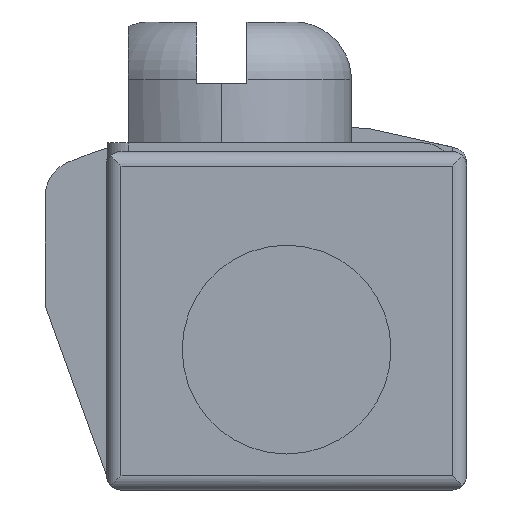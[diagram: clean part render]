
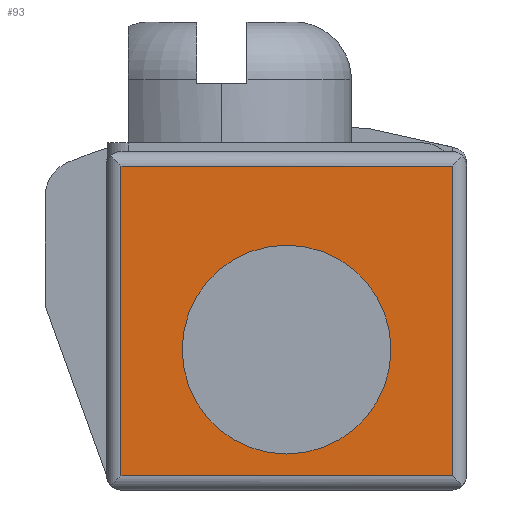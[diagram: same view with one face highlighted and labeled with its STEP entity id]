
A CAD part, left-side view. The second image highlights one B-rep face of the part: STEP entity #93.
In plain terms, the highlighted planar face has unit normal (-1, 0, 0).
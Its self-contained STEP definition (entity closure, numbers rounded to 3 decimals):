
#93 = ADVANCED_FACE( '', ( #260, #261 ), #262, .F. );
#260 = FACE_OUTER_BOUND( '', #601, .T. );
#261 = FACE_BOUND( '', #602, .T. );
#262 = PLANE( '', #603 );
#601 = EDGE_LOOP( '', ( #1095, #1096, #1097, #1098 ) );
#602 = EDGE_LOOP( '', ( #1099, #1100 ) );
#603 = AXIS2_PLACEMENT_3D( '', #1101, #1102, #1103 );
#1095 = ORIENTED_EDGE( '', *, *, #2429, .F. );
#1096 = ORIENTED_EDGE( '', *, *, #2436, .T. );
#1097 = ORIENTED_EDGE( '', *, *, #2437, .T. );
#1098 = ORIENTED_EDGE( '', *, *, #2438, .F. );
#1099 = ORIENTED_EDGE( '', *, *, #2439, .T. );
#1100 = ORIENTED_EDGE( '', *, *, #2368, .T. );
#1101 = CARTESIAN_POINT( '', ( 0., 0., 0. ) );
#1102 = DIRECTION( '', ( 1., 0., 0. ) );
#1103 = DIRECTION( '', ( 0., 0., -1. ) );
#2368 = EDGE_CURVE( '', #3153, #3150, #3154, .T. );
#2429 = EDGE_CURVE( '', #3263, #3255, #3265, .T. );
#2436 = EDGE_CURVE( '', #3263, #3278, #3279, .T. );
#2437 = EDGE_CURVE( '', #3278, #3280, #3281, .T. );
#2438 = EDGE_CURVE( '', #3255, #3280, #3282, .T. );
#2439 = EDGE_CURVE( '', #3150, #3153, #3283, .T. );
#3150 = VERTEX_POINT( '', #3982 );
#3153 = VERTEX_POINT( '', #3986 );
#3154 = CIRCLE( '', #3987, 1.45 );
#3255 = VERTEX_POINT( '', #4126 );
#3263 = VERTEX_POINT( '', #4135 );
#3265 = LINE( '', #4137, #4138 );
#3278 = VERTEX_POINT( '', #4153 );
#3279 = LINE( '', #4154, #4155 );
#3280 = VERTEX_POINT( '', #4156 );
#3281 = LINE( '', #4157, #4158 );
#3282 = LINE( '', #4159, #4160 );
#3283 = CIRCLE( '', #4161, 1.45 );
#3982 = CARTESIAN_POINT( '', ( 0., 1.45, 0. ) );
#3986 = CARTESIAN_POINT( '', ( 0., -1.45, 0. ) );
#3987 = AXIS2_PLACEMENT_3D( '', #5330, #5331, #5332 );
#4126 = CARTESIAN_POINT( '', ( 0., 2.3, -1.75 ) );
#4135 = CARTESIAN_POINT( '', ( 0., -2.3, -1.75 ) );
#4137 = CARTESIAN_POINT( '', ( 0., 0., -1.75 ) );
#4138 = VECTOR( '', #5435, 1. );
#4153 = CARTESIAN_POINT( '', ( 0., -2.3, 2.55 ) );
#4154 = CARTESIAN_POINT( '', ( 0., -2.3, 0.3 ) );
#4155 = VECTOR( '', #5450, 1. );
#4156 = CARTESIAN_POINT( '', ( 0., 2.3, 2.55 ) );
#4157 = CARTESIAN_POINT( '', ( 0., 0., 2.55 ) );
#4158 = VECTOR( '', #5451, 1. );
#4159 = CARTESIAN_POINT( '', ( 0., 2.3, 0.3 ) );
#4160 = VECTOR( '', #5452, 1. );
#4161 = AXIS2_PLACEMENT_3D( '', #5453, #5454, #5455 );
#5330 = CARTESIAN_POINT( '', ( 0., 0., 0. ) );
#5331 = DIRECTION( '', ( 1., 0., 0. ) );
#5332 = DIRECTION( '', ( 0., 1., 0. ) );
#5435 = DIRECTION( '', ( 0., 1., 0. ) );
#5450 = DIRECTION( '', ( 0., 0., 1. ) );
#5451 = DIRECTION( '', ( 0., 1., 0. ) );
#5452 = DIRECTION( '', ( 0., 0., 1. ) );
#5453 = CARTESIAN_POINT( '', ( 0., 0., 0. ) );
#5454 = DIRECTION( '', ( 1., 0., 0. ) );
#5455 = DIRECTION( '', ( 0., 1., 0. ) );
